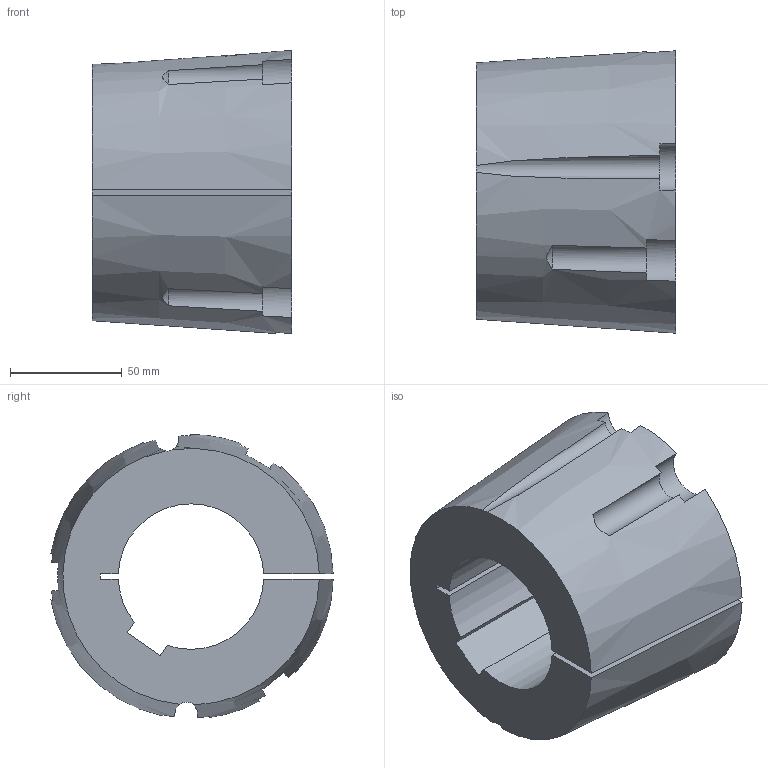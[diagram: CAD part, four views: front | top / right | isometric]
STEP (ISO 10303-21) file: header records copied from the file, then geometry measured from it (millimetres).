
FILE_DESCRIPTION( ( 'STEP AP203' ), '1' );
FILE_NAME( 'D:/export/antriebselemente/spannbuchsen_und_spannsaetze/taper-spannbuchsen_1008_bis_5050/taper-spannbuchsen_62251065Isometric_214.stp', '2018-12-11T11:11:27', ( '' ), ( '' ), ' ', 'PARTsolutions', ' ' );
FILE_SCHEMA( ( 'CONFIG_CONTROL_DESIGN' ) );
Length unit declared in the file: millimetre
Products named in the file (1): _taper-spannbuchsen_62251065
Bounding box: 89 x 126.13 x 126.46 mm (x, y, z)
Volume: 686525.5 mm3; surface area: 76655.1 mm2
Topology: 1 solids, 1 shells, 34 faces, 96 edges, 64 vertices
Faces by surface type: plane 15, cylinder 13, cone 6
Entity records: 1315 total; most frequent: CARTESIAN_POINT 391, ORIENTED_EDGE 192, DIRECTION 186, EDGE_CURVE 96, AXIS2_PLACEMENT_3D 80, VERTEX_POINT 64, CIRCLE 45, ADVANCED_FACE 34
